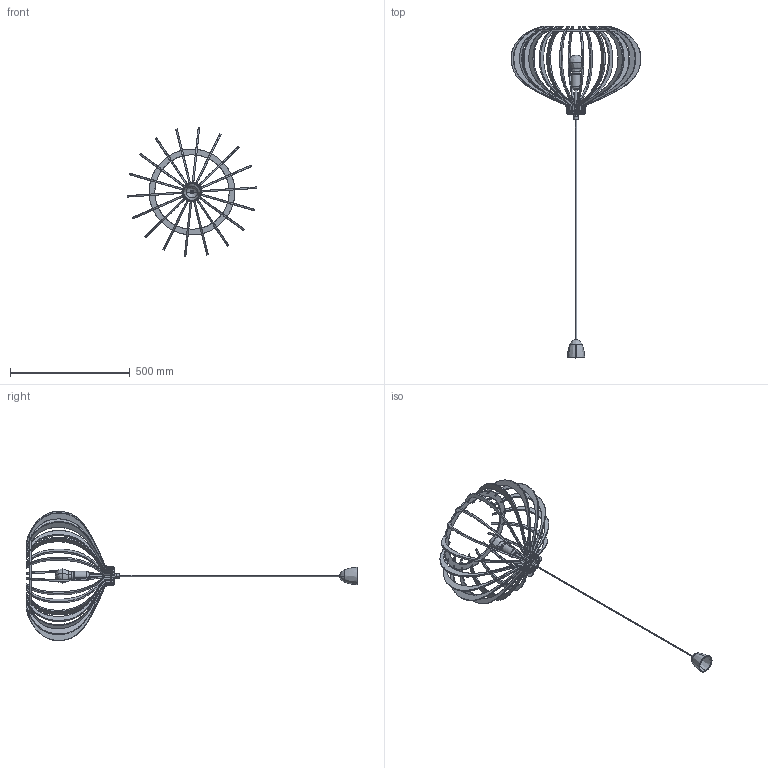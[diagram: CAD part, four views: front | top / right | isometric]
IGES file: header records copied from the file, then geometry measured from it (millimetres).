
Start section: SolidWorks IGES file using analytic representation for surfaces
Global section: file name: Z:\Modele 3D_WWW\_KOLEKCJE_WWW\IKA\IKA-D-4174\IKA-D-4174.IGS; native system: SolidWorks 2021; preprocessor: SolidWorks 2021; author: gabriela.tworek; date: 210621.145345; units: millimetre
Bounding box: 540.27 x 1383.6 x 538.64 mm (x, y, z)
Surface area: 605232.7 mm2 (no closed solid volume)
Topology: 0 solids, 0 shells, 480 faces, 8585 edges, 8565 vertices
Faces by surface type: bspline 359, revolution 121
